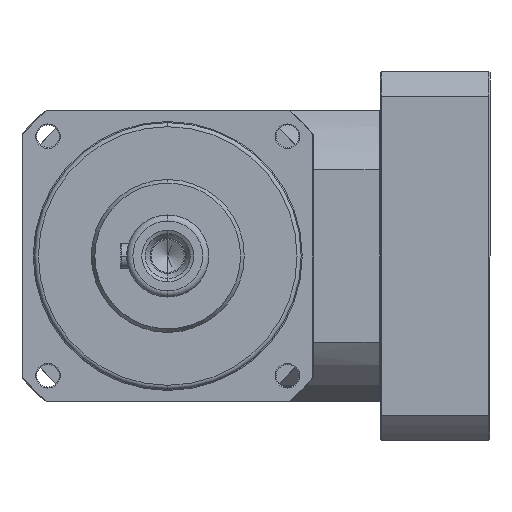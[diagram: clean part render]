
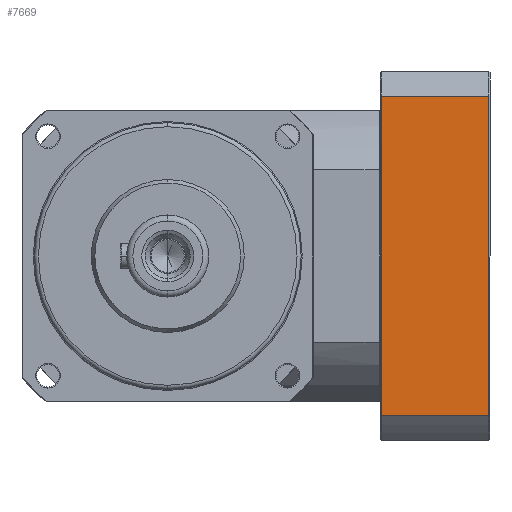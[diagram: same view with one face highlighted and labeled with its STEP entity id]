
A CAD part, left-side view. The second image highlights one B-rep face of the part: STEP entity #7669.
In plain terms, the highlighted planar face has unit normal (-1, 0, 0).
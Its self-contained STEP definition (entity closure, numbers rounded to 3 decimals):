
#166 = VECTOR ( 'NONE', #1727, 1000. ) ;
#469 = CARTESIAN_POINT ( 'NONE',  ( -37.213, -137.403, -77.852 ) ) ;
#542 = CARTESIAN_POINT ( 'NONE',  ( -37.213, -137.403, 77.852 ) ) ;
#751 = VECTOR ( 'NONE', #7455, 1000. ) ;
#958 = LINE ( 'NONE', #1490, #8907 ) ;
#1376 = VERTEX_POINT ( 'NONE', #4964 ) ;
#1490 = CARTESIAN_POINT ( 'NONE',  ( -37.213, -137.903, -77.852 ) ) ;
#1648 = CARTESIAN_POINT ( 'NONE',  ( -37.213, -84.903, -77.852 ) ) ;
#1727 = DIRECTION ( 'NONE',  ( 0., 0., 1. ) ) ;
#2079 = VERTEX_POINT ( 'NONE', #469 ) ;
#2401 = CARTESIAN_POINT ( 'NONE',  ( -37.213, -84.903, -77.852 ) ) ;
#2913 = AXIS2_PLACEMENT_3D ( 'NONE', #5048, #7367, #9790 ) ;
#3953 = DIRECTION ( 'NONE',  ( 0., 1., 0. ) ) ;
#3967 = ORIENTED_EDGE ( 'NONE', *, *, #10155, .F. ) ;
#4285 = ORIENTED_EDGE ( 'NONE', *, *, #5470, .T. ) ;
#4294 = CARTESIAN_POINT ( 'NONE',  ( -37.213, -137.903, 77.852 ) ) ;
#4896 = DIRECTION ( 'NONE',  ( 0., 0., -1. ) ) ;
#4964 = CARTESIAN_POINT ( 'NONE',  ( -37.213, -84.903, 77.852 ) ) ;
#5048 = CARTESIAN_POINT ( 'NONE',  ( -37.213, -84.403, 90. ) ) ;
#5077 = PLANE ( 'NONE',  #2913 ) ;
#5220 = VERTEX_POINT ( 'NONE', #2401 ) ;
#5327 = EDGE_CURVE ( 'NONE', #1376, #9139, #10076, .T. ) ;
#5470 = EDGE_CURVE ( 'NONE', #1376, #5220, #9831, .T. ) ;
#5675 = CARTESIAN_POINT ( 'NONE',  ( -37.213, -137.403, 90. ) ) ;
#7367 = DIRECTION ( 'NONE',  ( 1., 0., 0. ) ) ;
#7455 = DIRECTION ( 'NONE',  ( 0., -1., 0. ) ) ;
#7557 = EDGE_LOOP ( 'NONE', ( #8547, #4285, #3967, #8177 ) ) ;
#7669 = ADVANCED_FACE ( 'NONE', ( #9762 ), #5077, .F. ) ;
#8155 = EDGE_CURVE ( 'NONE', #2079, #9139, #8738, .T. ) ;
#8177 = ORIENTED_EDGE ( 'NONE', *, *, #8155, .T. ) ;
#8547 = ORIENTED_EDGE ( 'NONE', *, *, #5327, .F. ) ;
#8738 = LINE ( 'NONE', #5675, #166 ) ;
#8907 = VECTOR ( 'NONE', #3953, 1000. ) ;
#9139 = VERTEX_POINT ( 'NONE', #542 ) ;
#9716 = VECTOR ( 'NONE', #4896, 1000. ) ;
#9762 = FACE_OUTER_BOUND ( 'NONE', #7557, .T. ) ;
#9790 = DIRECTION ( 'NONE',  ( 0., 0., -1. ) ) ;
#9831 = LINE ( 'NONE', #1648, #9716 ) ;
#10076 = LINE ( 'NONE', #4294, #751 ) ;
#10155 = EDGE_CURVE ( 'NONE', #2079, #5220, #958, .T. ) ;
